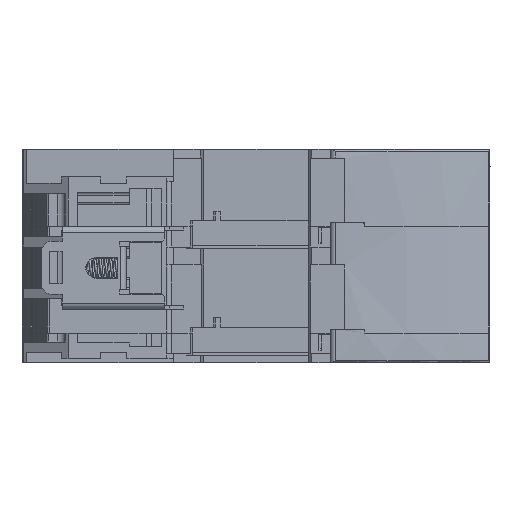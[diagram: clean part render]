
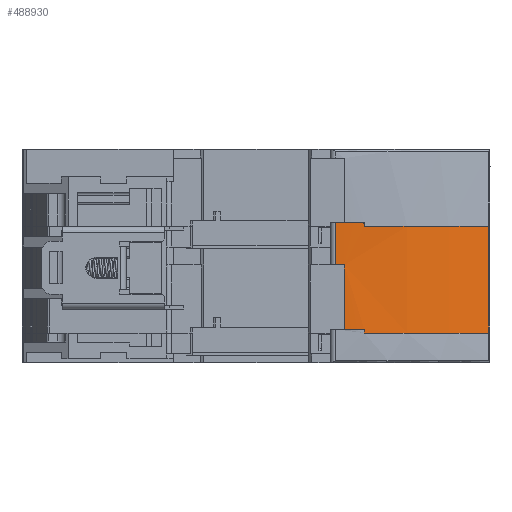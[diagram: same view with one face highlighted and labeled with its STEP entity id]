
A CAD part, front view. The second image highlights one B-rep face of the part: STEP entity #488930.
In plain terms, the highlighted cylindrical face has radius 80 mm (diameter 160 mm), a partial arc.
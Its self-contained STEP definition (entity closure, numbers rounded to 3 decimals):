
#451590=CARTESIAN_POINT('',(-7.257,-13.646,
-23.985));
#451600=VERTEX_POINT('',#451590);
#451630=CARTESIAN_POINT('',(-7.257,65.8,
-14.585));
#451640=DIRECTION('',(1.,0.,0.));
#451650=DIRECTION('',(0.,0.,-1.));
#451660=AXIS2_PLACEMENT_3D('',#451630,#451640,#451650);
#451670=CIRCLE('',#451660,80.);
#451680=CARTESIAN_POINT('',(-7.257,-5.781,
-50.308));
#451690=VERTEX_POINT('',#451680);
#451700=EDGE_CURVE('',#451600,#451690,#451670,.T.);
#460520=CARTESIAN_POINT('',(15.843,-13.646,
-23.985));
#460530=VERTEX_POINT('',#460520);
#460560=CARTESIAN_POINT('',(25.243,65.8,
-14.585));
#460570=DIRECTION('',(0.707,0.,
-0.707));
#460580=DIRECTION('',(-0.707,0.,
-0.707));
#460590=AXIS2_PLACEMENT_3D('',#460560,#460570,#460580);
#460600=ELLIPSE('',#460590,113.137,80.);
#460610=CARTESIAN_POINT('',(16.143,-13.681,
-23.685));
#460620=VERTEX_POINT('',#460610);
#460630=EDGE_CURVE('',#460620,#460530,#460600,.T.);
#460790=CARTESIAN_POINT('',(16.143,65.8,
-14.585));
#460800=DIRECTION('',(1.,0.,0.));
#460810=DIRECTION('',(0.,0.,-1.));
#460820=AXIS2_PLACEMENT_3D('',#460790,#460800,#460810);
#460830=CIRCLE('',#460820,80.);
#460840=CARTESIAN_POINT('',(16.143,-14.134,
-17.825));
#460850=VERTEX_POINT('',#460840);
#460860=EDGE_CURVE('',#460850,#460620,#460830,.T.);
#461200=CARTESIAN_POINT('',(7.143,-14.134,
-17.825));
#461210=VERTEX_POINT('',#461200);
#461310=CARTESIAN_POINT('',(7.143,-14.134,
-17.825));
#461320=DIRECTION('',(1.,0.,0.));
#461330=VECTOR('',#461320,1.);
#461340=LINE('',#461310,#461330);
#461350=EDGE_CURVE('',#461210,#460850,#461340,.T.);
#461630=CARTESIAN_POINT('',(7.143,65.8,
-14.585));
#461640=DIRECTION('',(1.,0.,0.));
#461650=DIRECTION('',(0.,0.,-1.));
#461660=AXIS2_PLACEMENT_3D('',#461630,#461640,#461650);
#461670=CIRCLE('',#461660,80.);
#461680=CARTESIAN_POINT('',(7.143,-14.031,
-19.785));
#461690=VERTEX_POINT('',#461680);
#461700=EDGE_CURVE('',#461210,#461690,#461670,.T.);
#464670=CARTESIAN_POINT('',(-6.457,-13.646,
-23.985));
#464680=VERTEX_POINT('',#464670);
#464710=CARTESIAN_POINT('',(10.293,-13.646,
-23.985));
#464720=DIRECTION('',(1.,0.,0.));
#464730=VECTOR('',#464720,1.);
#464740=LINE('',#464710,#464730);
#464750=EDGE_CURVE('',#451600,#464680,#464740,.T.);
#465200=CARTESIAN_POINT('',(-6.457,-14.031,
-19.785));
#465210=VERTEX_POINT('',#465200);
#465240=CARTESIAN_POINT('',(-6.457,65.8,
-14.585));
#465250=DIRECTION('',(1.,0.,0.));
#465260=DIRECTION('',(0.,0.,-1.));
#465270=AXIS2_PLACEMENT_3D('',#465240,#465250,#465260);
#465280=CIRCLE('',#465270,80.);
#465290=EDGE_CURVE('',#465210,#464680,#465280,.T.);
#466510=CARTESIAN_POINT('',(10.293,-14.031,
-19.785));
#466520=DIRECTION('',(1.,0.,0.));
#466530=VECTOR('',#466520,1.);
#466540=LINE('',#466510,#466530);
#466550=EDGE_CURVE('',#465210,#461690,#466540,.T.);
#467000=CARTESIAN_POINT('',(15.343,-13.646,
-23.985));
#467010=VERTEX_POINT('',#467000);
#467040=CARTESIAN_POINT('',(10.293,-13.646,
-23.985));
#467050=DIRECTION('',(1.,0.,0.));
#467060=VECTOR('',#467050,1.);
#467070=LINE('',#467040,#467060);
#467080=EDGE_CURVE('',#467010,#460530,#467070,.T.);
#468870=CARTESIAN_POINT('',(15.343,-5.781,
-50.308));
#468880=VERTEX_POINT('',#468870);
#468910=CARTESIAN_POINT('',(15.343,65.8,
-14.585));
#468920=DIRECTION('',(1.,0.,0.));
#468930=DIRECTION('',(0.,0.,-1.));
#468940=AXIS2_PLACEMENT_3D('',#468910,#468920,#468930);
#468950=CIRCLE('',#468940,80.);
#468960=EDGE_CURVE('',#467010,#468880,#468950,.T.);
#488700=CARTESIAN_POINT('',(10.293,65.8,
-14.585));
#488710=DIRECTION('',(1.,0.,0.));
#488720=DIRECTION('',(0.,0.,-1.));
#488730=AXIS2_PLACEMENT_3D('',#488700,#488710,#488720);
#488740=CYLINDRICAL_SURFACE('',#488730,80.);
#488750=ORIENTED_EDGE('',*,*,#451700,.T.);
#488760=ORIENTED_EDGE('',*,*,#464750,.F.);
#488770=ORIENTED_EDGE('',*,*,#465290,.T.);
#488780=ORIENTED_EDGE('',*,*,#466550,.F.);
#488790=ORIENTED_EDGE('',*,*,#461700,.T.);
#488800=ORIENTED_EDGE('',*,*,#461350,.F.);
#488810=ORIENTED_EDGE('',*,*,#460860,.F.);
#488820=ORIENTED_EDGE('',*,*,#460630,.F.);
#488830=ORIENTED_EDGE('',*,*,#467080,.T.);
#488840=ORIENTED_EDGE('',*,*,#468960,.F.);
#488850=CARTESIAN_POINT('',(4.043,-5.781,
-50.308));
#488860=DIRECTION('',(-1.,0.,0.));
#488870=VECTOR('',#488860,1.);
#488880=LINE('',#488850,#488870);
#488890=EDGE_CURVE('',#468880,#451690,#488880,.T.);
#488900=ORIENTED_EDGE('',*,*,#488890,.F.);
#488910=EDGE_LOOP('',(#488900,#488840,#488830,#488820,#488810,#488800,
#488790,#488780,#488770,#488760,#488750));
#488920=FACE_OUTER_BOUND('',#488910,.T.);
#488930=ADVANCED_FACE('',(#488920),#488740,.T.);
